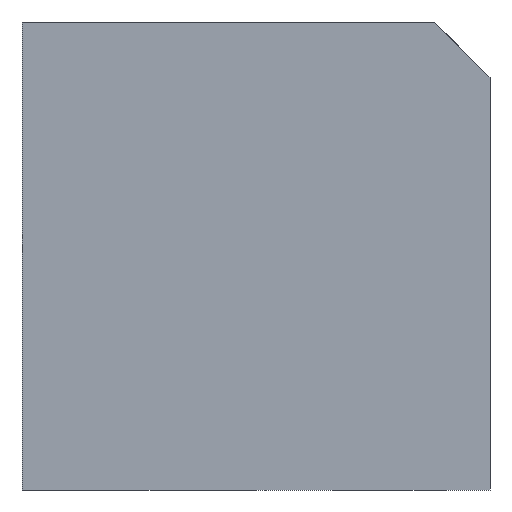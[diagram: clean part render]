
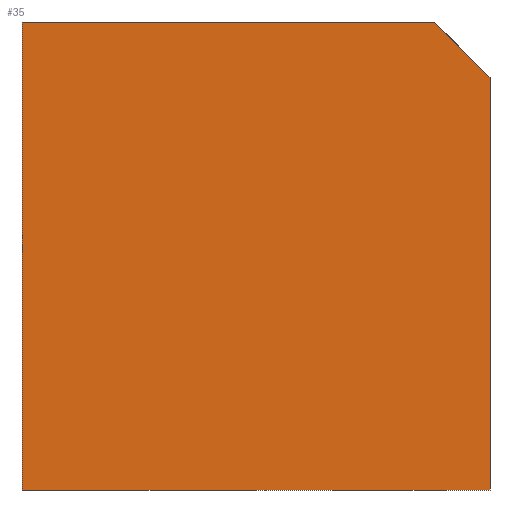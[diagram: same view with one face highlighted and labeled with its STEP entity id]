
A CAD part, left-side view. The second image highlights one B-rep face of the part: STEP entity #35.
In plain terms, the highlighted planar face has unit normal (-1, 0, 0).
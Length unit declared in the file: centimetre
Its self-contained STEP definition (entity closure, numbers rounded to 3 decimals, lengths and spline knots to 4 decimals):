
#6 = ORIENTED_EDGE ( 'NONE', *, *, #252, .F. ) ;
#9 = PLANE ( 'NONE',  #88 ) ;
#13 = CARTESIAN_POINT ( 'NONE',  ( 0., 1000., 1000. ) ) ;
#16 = VERTEX_POINT ( 'NONE', #123 ) ;
#35 = ADVANCED_FACE ( 'NONE', ( #247 ), #9, .F. ) ;
#42 = VECTOR ( 'NONE', #376, 100. ) ;
#47 = CARTESIAN_POINT ( 'NONE',  ( 0., 1000., 0. ) ) ;
#50 = EDGE_CURVE ( 'NONE', #255, #378, #316, .T. ) ;
#56 = VERTEX_POINT ( 'NONE', #429 ) ;
#66 = DIRECTION ( 'NONE',  ( 0., 0., -1. ) ) ;
#80 = LINE ( 'NONE', #178, #42 ) ;
#83 = LINE ( 'NONE', #13, #381 ) ;
#88 = AXIS2_PLACEMENT_3D ( 'NONE', #380, #408, #217 ) ;
#91 = EDGE_CURVE ( 'NONE', #56, #16, #257, .T. ) ;
#94 = CARTESIAN_POINT ( 'NONE',  ( 0., 1000., 1000. ) ) ;
#113 = CARTESIAN_POINT ( 'NONE',  ( 0., 118.9658, 1000. ) ) ;
#123 = CARTESIAN_POINT ( 'NONE',  ( 0., 1000., 0. ) ) ;
#136 = EDGE_LOOP ( 'NONE', ( #334, #235, #6, #307, #177 ) ) ;
#146 = CARTESIAN_POINT ( 'NONE',  ( 0., 0., 881.0342 ) ) ;
#175 = CARTESIAN_POINT ( 'NONE',  ( 0., 0., 0. ) ) ;
#177 = ORIENTED_EDGE ( 'NONE', *, *, #402, .T. ) ;
#178 = CARTESIAN_POINT ( 'NONE',  ( 0., 0., 1000. ) ) ;
#189 = VECTOR ( 'NONE', #386, 100. ) ;
#201 = DIRECTION ( 'NONE',  ( 0., -1., 0. ) ) ;
#209 = VECTOR ( 'NONE', #201, 100. ) ;
#217 = DIRECTION ( 'NONE',  ( 0., 0., -1. ) ) ;
#235 = ORIENTED_EDGE ( 'NONE', *, *, #50, .T. ) ;
#247 = FACE_OUTER_BOUND ( 'NONE', #136, .T. ) ;
#252 = EDGE_CURVE ( 'NONE', #56, #378, #83, .T. ) ;
#255 = VERTEX_POINT ( 'NONE', #146 ) ;
#257 = LINE ( 'NONE', #94, #331 ) ;
#266 = DIRECTION ( 'NONE',  ( 0., -1., 0. ) ) ;
#286 = EDGE_CURVE ( 'NONE', #255, #287, #80, .T. ) ;
#287 = VERTEX_POINT ( 'NONE', #175 ) ;
#307 = ORIENTED_EDGE ( 'NONE', *, *, #91, .T. ) ;
#316 = LINE ( 'NONE', #427, #189 ) ;
#327 = LINE ( 'NONE', #47, #209 ) ;
#331 = VECTOR ( 'NONE', #66, 100. ) ;
#334 = ORIENTED_EDGE ( 'NONE', *, *, #286, .F. ) ;
#376 = DIRECTION ( 'NONE',  ( 0., 0., -1. ) ) ;
#378 = VERTEX_POINT ( 'NONE', #113 ) ;
#380 = CARTESIAN_POINT ( 'NONE',  ( 0., 1000., 1000. ) ) ;
#381 = VECTOR ( 'NONE', #266, 100. ) ;
#386 = DIRECTION ( 'NONE',  ( 0., 0.707, 0.707 ) ) ;
#402 = EDGE_CURVE ( 'NONE', #16, #287, #327, .T. ) ;
#408 = DIRECTION ( 'NONE',  ( 1., 0., 0. ) ) ;
#427 = CARTESIAN_POINT ( 'NONE',  ( 0., 118.9658, 1000. ) ) ;
#429 = CARTESIAN_POINT ( 'NONE',  ( 0., 1000., 1000. ) ) ;
